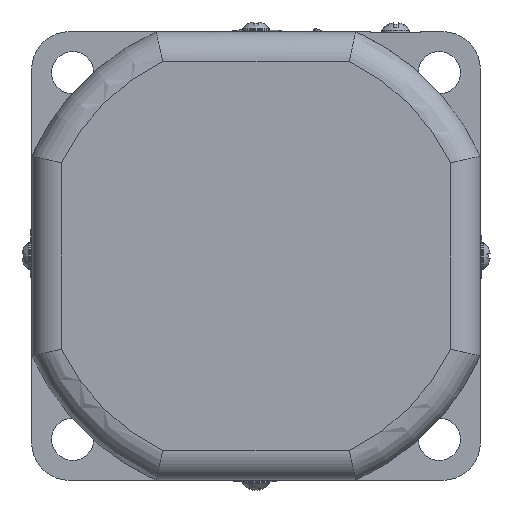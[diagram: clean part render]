
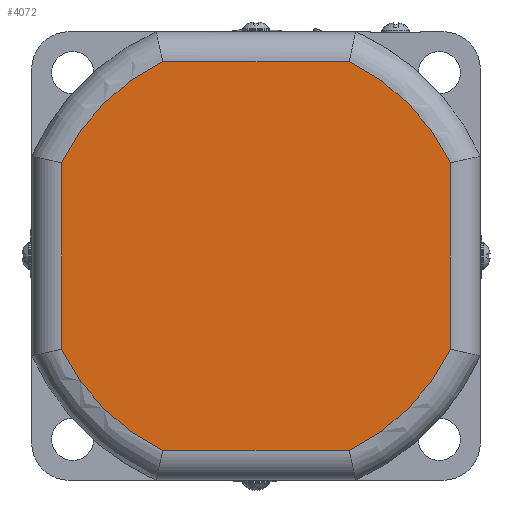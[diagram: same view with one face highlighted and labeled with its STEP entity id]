
A CAD part, left-side view. The second image highlights one B-rep face of the part: STEP entity #4072.
In plain terms, the highlighted planar face has unit normal (-1, 0, 0).
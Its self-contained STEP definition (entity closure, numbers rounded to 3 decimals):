
#232=LINE('',#6433,#541);
#235=LINE('',#6453,#544);
#236=LINE('',#6506,#545);
#237=LINE('',#6523,#546);
#541=VECTOR('',#4964,37.393);
#544=VECTOR('',#4969,37.393);
#545=VECTOR('',#4984,37.393);
#546=VECTOR('',#4987,37.393);
#979=FACE_OUTER_BOUND('',#1245,.T.);
#1245=EDGE_LOOP('',(#2881,#2882,#2883,#2884,#2885,#2886,#2887,#2888));
#1483=CIRCLE('',#4354,43.25);
#1484=CIRCLE('',#4358,43.25);
#1487=CIRCLE('',#4362,43.25);
#1488=CIRCLE('',#4366,43.25);
#1720=VERTEX_POINT('',#6383);
#1722=VERTEX_POINT('',#6400);
#1724=VERTEX_POINT('',#6418);
#1726=VERTEX_POINT('',#6437);
#1727=VERTEX_POINT('',#6455);
#1728=VERTEX_POINT('',#6473);
#1729=VERTEX_POINT('',#6491);
#1730=VERTEX_POINT('',#6508);
#2152=EDGE_CURVE('',#1722,#1720,#1483,.T.);
#2154=EDGE_CURVE('',#1724,#1722,#232,.T.);
#2158=EDGE_CURVE('',#1720,#1726,#235,.T.);
#2160=EDGE_CURVE('',#1727,#1724,#1484,.T.);
#2164=EDGE_CURVE('',#1726,#1728,#1487,.T.);
#2166=EDGE_CURVE('',#1729,#1727,#236,.T.);
#2168=EDGE_CURVE('',#1728,#1730,#237,.T.);
#2169=EDGE_CURVE('',#1730,#1729,#1488,.T.);
#2881=ORIENTED_EDGE('',*,*,#2168,.F.);
#2882=ORIENTED_EDGE('',*,*,#2164,.F.);
#2883=ORIENTED_EDGE('',*,*,#2158,.F.);
#2884=ORIENTED_EDGE('',*,*,#2152,.F.);
#2885=ORIENTED_EDGE('',*,*,#2154,.F.);
#2886=ORIENTED_EDGE('',*,*,#2160,.F.);
#2887=ORIENTED_EDGE('',*,*,#2166,.F.);
#2888=ORIENTED_EDGE('',*,*,#2169,.F.);
#3653=PLANE('',#4368);
#4072=ADVANCED_FACE('',(#979),#3653,.F.);
#4354=AXIS2_PLACEMENT_3D('',#6415,#4960,#4961);
#4358=AXIS2_PLACEMENT_3D('',#6470,#4972,#4973);
#4362=AXIS2_PLACEMENT_3D('',#6489,#4980,#4981);
#4366=AXIS2_PLACEMENT_3D('',#6525,#4990,#4991);
#4368=AXIS2_PLACEMENT_3D('',#6527,#4994,#4995);
#4960=DIRECTION('center_axis',(1.,0.,0.));
#4961=DIRECTION('ref_axis',(0.,0.707,-0.707));
#4964=DIRECTION('',(0.,1.,0.));
#4969=DIRECTION('',(0.,0.,1.));
#4972=DIRECTION('center_axis',(1.,0.,0.));
#4973=DIRECTION('ref_axis',(0.,-0.707,-0.707));
#4980=DIRECTION('center_axis',(1.,0.,0.));
#4981=DIRECTION('ref_axis',(0.,0.707,0.707));
#4984=DIRECTION('',(0.,0.,-1.));
#4987=DIRECTION('',(0.,-1.,0.));
#4990=DIRECTION('center_axis',(1.,0.,0.));
#4991=DIRECTION('ref_axis',(0.,-0.707,0.707));
#4994=DIRECTION('center_axis',(1.,0.,0.));
#4995=DIRECTION('ref_axis',(0.,1.,0.));
#6383=CARTESIAN_POINT('',(-58.3,39.,-18.697));
#6400=CARTESIAN_POINT('',(-58.3,18.697,-39.));
#6415=CARTESIAN_POINT('Origin',(-58.3,0.,
0.));
#6418=CARTESIAN_POINT('',(-58.3,-18.697,-39.));
#6433=CARTESIAN_POINT('',(-58.3,-18.697,-39.));
#6437=CARTESIAN_POINT('',(-58.3,39.,18.697));
#6453=CARTESIAN_POINT('',(-58.3,39.,-18.697));
#6455=CARTESIAN_POINT('',(-58.3,-39.,-18.697));
#6470=CARTESIAN_POINT('Origin',(-58.3,0.,
0.));
#6473=CARTESIAN_POINT('',(-58.3,18.697,39.));
#6489=CARTESIAN_POINT('Origin',(-58.3,0.,
0.));
#6491=CARTESIAN_POINT('',(-58.3,-39.,18.697));
#6506=CARTESIAN_POINT('',(-58.3,-39.,18.697));
#6508=CARTESIAN_POINT('',(-58.3,-18.697,39.));
#6523=CARTESIAN_POINT('',(-58.3,18.697,39.));
#6525=CARTESIAN_POINT('Origin',(-58.3,0.,
0.));
#6527=CARTESIAN_POINT('Origin',(-58.3,0.,
0.));
